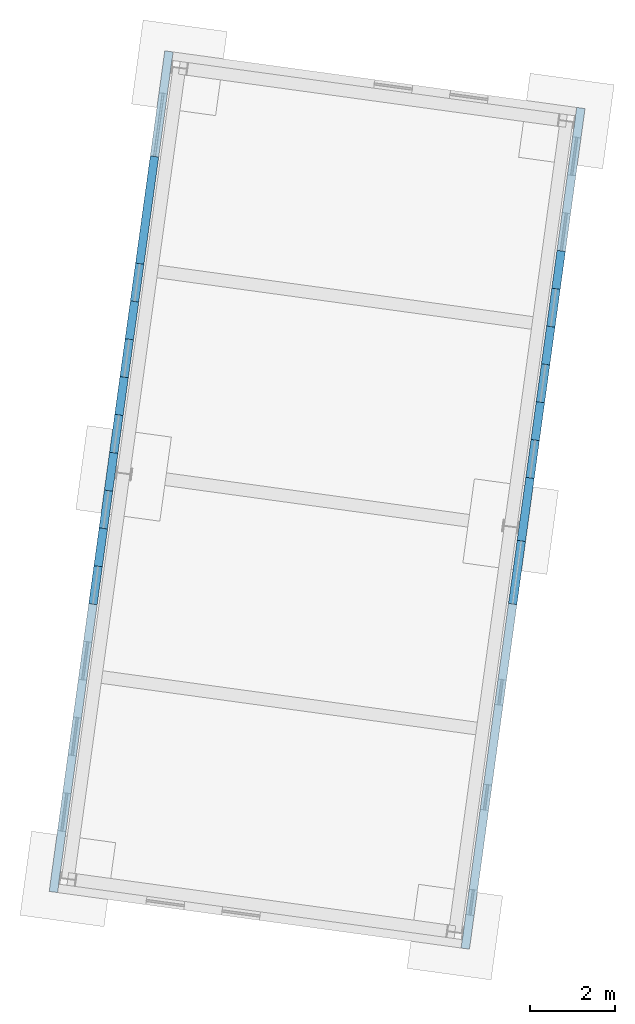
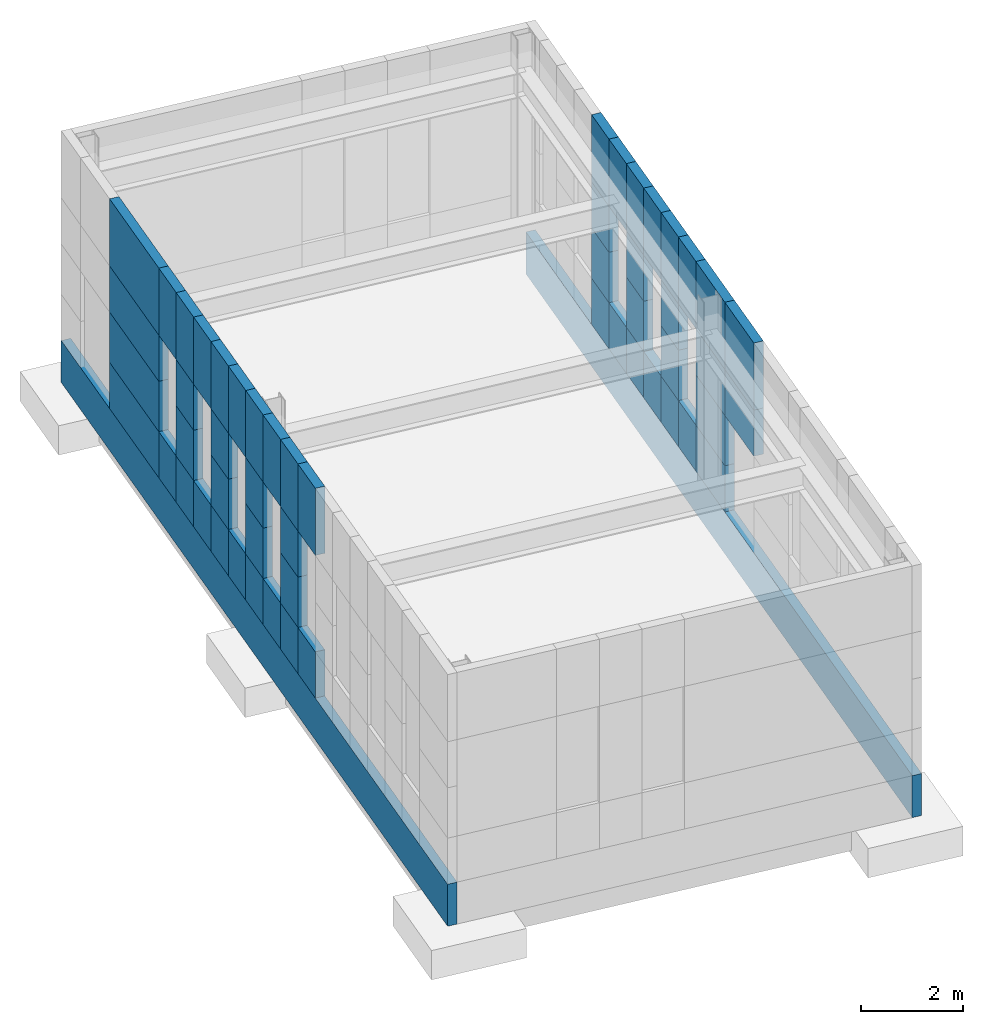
# One storey, part 3 of 5: 56 walls.
"""IFC4 building model written with IfcOpenShell, lengths in metres."""

import ifcopenshell
import ifcopenshell.guid

model = None  # the IFC model being written
_history = None  # IfcOwnerHistory: only IFC2X3 demands one
_inside = {}  # id of a spatial element -> (the spatial element, [elements in it])
_under = {}  # id of a project, library or spatial element -> (it, [spatial elements below it])
_declared = {}  # id of a project -> (the project, [libraries it declares])
_typed = {}  # id of a type object -> (the type object, [elements of that type])
_made_of = {}  # id of a material, layer set ... -> (it, [elements and type objects made of it])


def new_model(schema):
    """Start an empty IFC model of exactly this schema.

    Asked for "IFC4X3", IfcOpenShell would pick the latest addendum, in which some entities
    have other attributes; the version numbers below select the first issue.
    IFC2X3 requires an IfcOwnerHistory on every rooted entity: one is made here for all.
    """
    global model, _history
    if schema == "IFC4X3":
        model = ifcopenshell.file(schema_version=(4, 3, 0, 0))
    else:
        model = ifcopenshell.file(schema=schema)
    _inside.clear()
    _under.clear()
    _declared.clear()
    _typed.clear()
    _made_of.clear()
    _history = None
    if model.schema == "IFC2X3":
        org = make("IfcOrganization", Name="unknown")
        user = make(
            "IfcPersonAndOrganization",
            ThePerson=make("IfcPerson", FamilyName="unknown"),
            TheOrganization=org,
        )
        app = make(
            "IfcApplication",
            ApplicationDeveloper=org,
            Version="unknown",
            ApplicationFullName="unknown",
            ApplicationIdentifier="unknown",
        )
        _history = make(
            "IfcOwnerHistory",
            OwningUser=user,
            OwningApplication=app,
            ChangeAction="ADDED",
            CreationDate=0,
        )
    return model


def make(cls, **values):
    """One entity of the class cls with the attributes given. An attribute that is None is left unset."""
    return model.create_entity(
        cls, **{name: value for name, value in values.items() if value is not None}
    )


def rooted(cls, **values):
    """An entity with a GlobalId (a new one), such as an element, a storey or a relation."""
    return make(cls, GlobalId=ifcopenshell.guid.new(), OwnerHistory=_history, **values)


def si_unit(unit_type, name, prefix=None):
    """IfcSIUnit, for example si_unit("LENGTHUNIT", "METRE", prefix="MILLI")."""
    return make("IfcSIUnit", UnitType=unit_type, Prefix=prefix, Name=name)


def assignment(units):
    """IfcUnitAssignment: the units of a project."""
    return None if units is None else make("IfcUnitAssignment", Units=units)


def point(xyz):
    """IfcCartesianPoint."""
    return None if xyz is None else make("IfcCartesianPoint", Coordinates=xyz)


def direction(xyz):
    """IfcDirection."""
    return None if xyz is None else make("IfcDirection", DirectionRatios=xyz)


def frame(location, z_axis=None, x_axis=None):
    """IfcAxis2Placement3D, a coordinate frame: its origin and axes. An axis left out is left unset."""
    return make(
        "IfcAxis2Placement3D",
        Location=point(location),
        Axis=direction(z_axis),
        RefDirection=direction(x_axis),
    )


def origin_with_axes():
    """The frame at (0, 0, 0) with the z axis (0, 0, 1) and the x axis (1, 0, 0) written out."""
    return frame((0.0, 0.0, 0.0), z_axis=(0.0, 0.0, 1.0), x_axis=(1.0, 0.0, 0.0))


def place(relative_to, where):
    """IfcLocalPlacement: puts the frame where relative to a parent placement (None: the world)."""
    return make(
        "IfcLocalPlacement", PlacementRelTo=relative_to, RelativePlacement=where
    )


def context(
    kind, dimensions, precision=None, world=None, true_north=None, identifier=None
):
    """IfcGeometricRepresentationContext, for example the 3D "Model" context."""
    return make(
        "IfcGeometricRepresentationContext",
        ContextIdentifier=identifier,
        ContextType=kind,
        CoordinateSpaceDimension=dimensions,
        Precision=precision,
        WorldCoordinateSystem=world,
        TrueNorth=true_north,
    )


def subcontext(parent, identifier, kind, view, scale=None):
    """IfcGeometricRepresentationSubContext, for example "Body" below "Model"."""
    return make(
        "IfcGeometricRepresentationSubContext",
        ContextIdentifier=identifier,
        ContextType=kind,
        ParentContext=parent,
        TargetScale=scale,
        TargetView=view,
    )


def project(units=None, contexts=None):
    """IfcProject with its units and contexts."""
    return rooted(
        "IfcProject",
        Name="project",
        RepresentationContexts=contexts,
        UnitsInContext=assignment(units),
    )


def spatial(cls, under=None, at=None, **own):
    """A site, building, storey or space (cls), placed at a placement, below another one or the project."""
    s = rooted(cls, ObjectPlacement=at, **own)
    if under is not None:
        _under.setdefault(under.id(), (under, []))[1].append(s)
    return s


def point_list(points):
    """IfcCartesianPointList2D or 3D."""
    cls = (
        "IfcCartesianPointList2D" if len(points[0]) == 2 else "IfcCartesianPointList3D"
    )
    return make(cls, CoordList=points)


def triangles(points, corners, closed=None, point_numbers=None):
    """IfcTriangulatedFaceSet: each triangle names its three corners, points numbered from 1."""
    return make(
        "IfcTriangulatedFaceSet",
        Coordinates=point_list(points),
        Closed=closed,
        CoordIndex=corners,
        PnIndex=point_numbers,
    )


def shape(context_of_items, identifier, shape_type, items):
    """IfcShapeRepresentation: the items that make up one representation, for example the "Body"."""
    return make(
        "IfcShapeRepresentation",
        ContextOfItems=context_of_items,
        RepresentationIdentifier=identifier,
        RepresentationType=shape_type,
        Items=items,
    )


def material(Name=None, Category=None):
    """IfcMaterial."""
    return make("IfcMaterial", Name=Name, Category=Category)


def made_of(thing, what):
    """Note that an element or type object is made of a material, layer set ...; save() writes the relation."""
    if what is not None:
        _made_of.setdefault(what.id(), (what, []))[1].append(thing)
    return thing


def element(
    cls,
    number,
    at=None,
    inside=None,
    cuts=None,
    type_object=None,
    material=None,
    context=None,
    identifier="Body",
    shape_type=None,
    held_by="IfcProductDefinitionShape",
    body=None,
    shapes=None,
    **own,
):
    """One element of the class cls, such as IfcWall. Its Tag is "e" and its number.

    at: its placement. inside: the storey or other place that contains it. cuts: it is an
    opening in that element (IfcRelVoidsElement). A single representation is given by context,
    identifier, shape_type and body (its items); several are given by shapes. held_by: the class
    of the entity that holds the representations. save() writes the other relations.
    """
    e = rooted(cls, Tag="e%d" % number, ObjectPlacement=at, **own)
    if body is not None:
        shapes = [shape(context, identifier, shape_type, body)]
    if shapes is not None:
        e.Representation = make(held_by, Representations=shapes)
    if inside is not None:
        _inside.setdefault(inside.id(), (inside, []))[1].append(e)
    if cuts is not None:
        rooted(
            "IfcRelVoidsElement", RelatingBuildingElement=cuts, RelatedOpeningElement=e
        )
    if type_object is not None:
        _typed.setdefault(type_object.id(), (type_object, []))[1].append(e)
    return made_of(e, material)


def aggregate(whole, parts):
    """IfcRelAggregates: a whole, such as a stair, and the parts it consists of."""
    return rooted("IfcRelAggregates", RelatingObject=whole, RelatedObjects=parts)


def save(model, path):
    """Write the relations noted so far, then the file.

    IfcRelAggregates (storeys below a building ...), IfcRelContainedInSpatialStructure (elements
    in a storey), IfcRelDefinesByType, IfcRelAssociatesMaterial and IfcRelDeclares: one each for
    every whole, place, type object, material and project.
    """
    for whole, parts in _under.values():
        aggregate(whole, parts)
    for where, things in _inside.values():
        rooted(
            "IfcRelContainedInSpatialStructure",
            RelatedElements=things,
            RelatingStructure=where,
        )
    for kind, things in _typed.values():
        rooted("IfcRelDefinesByType", RelatedObjects=things, RelatingType=kind)
    for what, things in _made_of.values():
        rooted("IfcRelAssociatesMaterial", RelatedObjects=things, RelatingMaterial=what)
    for by, libraries in _declared.values():
        rooted("IfcRelDeclares", RelatingContext=by, RelatedDefinitions=libraries)
    model.write(path)


model = new_model("IFC4")

# Units and contexts
model_context = context("Model", 3, precision=1e-05, world=origin_with_axes(), true_north=direction((0.0, 1.0)))
body_context = subcontext(model_context, "Body", "Model", "MODEL_VIEW")
ifc_project = project(units=[si_unit("AREAUNIT", "SQUARE_METRE"), si_unit("VOLUMEUNIT", "CUBIC_METRE"), si_unit("LENGTHUNIT", "METRE")], contexts=[model_context])

# Site, building, storey
site_placement = place(None, origin_with_axes())
site = spatial("IfcSite", under=ifc_project, at=site_placement, Name="Parcela industrial Jinhong")
building_placement = place(site_placement, origin_with_axes())
building = spatial("IfcBuilding", under=site, at=building_placement, Name="Edificio de oficinas")
storey_placement = place(building_placement, origin_with_axes())
storey = spatial("IfcBuildingStorey", under=building, at=storey_placement, Name="Planta baja", Elevation=0.9499999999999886)

# Walls
ifc_material_1 = material(Name="Bloque hueco de hormigón de árido ligero", Category="Material documentado")
wall_1_placement = place(storey_placement, origin_with_axes())
element("IfcWall", 1, at=wall_1_placement, inside=storey, material=ifc_material_1, Name="Edificio de oficinas · Fábrica de bloques huecos de hormigón de 200 mm · eje A · tramo 07", PredefinedType="STANDARD", context=body_context, shape_type="Tessellation", body=[
    triangles([(17.202125, 90.441126, 0.95), (16.854805, 87.91489, 0.95), (17.052941, 87.887649, 0.95), (17.400261, 90.413885, 0.95), (17.202125, 90.441126, 2.05), (16.854805, 87.91489, 2.05), (17.052941, 87.887649, 2.05), (17.400261, 90.413885, 2.05)], [[2, 1, 4], [4, 3, 2], [8, 5, 6], [6, 7, 8], [1, 2, 6], [1, 6, 5], [2, 3, 7], [2, 7, 6], [3, 4, 8], [3, 8, 7], [4, 1, 5], [4, 5, 8]], closed=True),
])
wall_2_placement = place(storey_placement, origin_with_axes())
element("IfcWall", 2, at=wall_2_placement, inside=storey, material=ifc_material_1, Name="Edificio de oficinas · Fábrica de bloques huecos de hormigón de 200 mm · eje A · tramo 08", PredefinedType="STANDARD", context=body_context, shape_type="Tessellation", body=[
    triangles([(17.202125, 90.441126, 2.05), (16.854805, 87.91489, 2.05), (17.052941, 87.887649, 2.05), (17.400261, 90.413885, 2.05), (17.202125, 90.441126, 3.25), (16.854805, 87.91489, 3.25), (17.052941, 87.887649, 3.25), (17.400261, 90.413885, 3.25)], [[2, 1, 4], [4, 3, 2], [8, 5, 6], [6, 7, 8], [1, 2, 6], [1, 6, 5], [2, 3, 7], [2, 7, 6], [3, 4, 8], [3, 8, 7], [4, 1, 5], [4, 5, 8]], closed=True),
])
wall_3_placement = place(storey_placement, origin_with_axes())
element("IfcWall", 3, at=wall_3_placement, inside=storey, material=ifc_material_1, Name="Edificio de oficinas · Fábrica de bloques huecos de hormigón de 200 mm · eje A · tramo 09", PredefinedType="STANDARD", context=body_context, shape_type="Tessellation", body=[
    triangles([(17.202125, 90.441126, 3.25), (16.854805, 87.91489, 3.25), (17.052941, 87.887649, 3.25), (17.400261, 90.413885, 3.25), (17.202125, 90.441126, 4.35), (16.854805, 87.91489, 4.35), (17.052941, 87.887649, 4.35), (17.400261, 90.413885, 4.35)], [[2, 1, 4], [4, 3, 2], [8, 5, 6], [6, 7, 8], [1, 2, 6], [1, 6, 5], [2, 3, 7], [2, 7, 6], [3, 4, 8], [3, 8, 7], [4, 1, 5], [4, 5, 8]], closed=True),
])
wall_4_placement = place(storey_placement, origin_with_axes())
element("IfcWall", 4, at=wall_4_placement, inside=storey, material=ifc_material_1, Name="Edificio de oficinas · Fábrica de bloques huecos de hormigón de 200 mm · eje A · tramo 10", PredefinedType="STANDARD", context=body_context, shape_type="Tessellation", body=[
    triangles([(17.202125, 90.441126, 4.35), (16.854805, 87.91489, 4.35), (17.052941, 87.887649, 4.35), (17.400261, 90.413885, 4.35), (17.202125, 90.441126, 5.95), (16.854805, 87.91489, 5.95), (17.052941, 87.887649, 5.95), (17.400261, 90.413885, 5.95)], [[2, 1, 4], [4, 3, 2], [8, 5, 6], [6, 7, 8], [1, 2, 6], [1, 6, 5], [2, 3, 7], [2, 7, 6], [3, 4, 8], [3, 8, 7], [4, 1, 5], [4, 5, 8]], closed=True),
])
wall_5_placement = place(storey_placement, origin_with_axes())
element("IfcWall", 5, at=wall_5_placement, inside=storey, material=ifc_material_1, Name="Edificio de oficinas · Fábrica de bloques huecos de hormigón de 200 mm · eje A · tramo 11", PredefinedType="STANDARD", context=body_context, shape_type="Tessellation", body=[
    triangles([(16.854805, 87.91489, 0.95), (16.732222, 87.023277, 0.95), (16.930358, 86.996036, 0.95), (17.052941, 87.887649, 0.95), (16.854805, 87.91489, 2.05), (16.732222, 87.023277, 2.05), (16.930358, 86.996036, 2.05), (17.052941, 87.887649, 2.05)], [[2, 1, 4], [4, 3, 2], [8, 5, 6], [6, 7, 8], [1, 2, 6], [1, 6, 5], [2, 3, 7], [2, 7, 6], [3, 4, 8], [3, 8, 7], [4, 1, 5], [4, 5, 8]], closed=True),
])
wall_6_placement = place(storey_placement, origin_with_axes())
element("IfcWall", 6, at=wall_6_placement, inside=storey, material=ifc_material_1, Name="Edificio de oficinas · Fábrica de bloques huecos de hormigón de 200 mm · eje A · tramo 12", PredefinedType="STANDARD", context=body_context, shape_type="Tessellation", body=[
    triangles([(16.854805, 87.91489, 4.35), (16.732222, 87.023277, 4.35), (16.930358, 86.996036, 4.35), (17.052941, 87.887649, 4.35), (16.854805, 87.91489, 5.95), (16.732222, 87.023277, 5.95), (16.930358, 86.996036, 5.95), (17.052941, 87.887649, 5.95)], [[2, 1, 4], [4, 3, 2], [8, 5, 6], [6, 7, 8], [1, 2, 6], [1, 6, 5], [2, 3, 7], [2, 7, 6], [3, 4, 8], [3, 8, 7], [4, 1, 5], [4, 5, 8]], closed=True),
])
wall_7_placement = place(storey_placement, origin_with_axes())
element("IfcWall", 7, at=wall_7_placement, inside=storey, material=ifc_material_1, Name="Edificio de oficinas · Fábrica de bloques huecos de hormigón de 200 mm · eje A · tramo 13", PredefinedType="STANDARD", context=body_context, shape_type="Tessellation", body=[
    triangles([(16.732222, 87.023277, 0.95), (16.609638, 86.131664, 0.95), (16.807774, 86.104423, 0.95), (16.930358, 86.996036, 0.95), (16.732222, 87.023277, 2.05), (16.609638, 86.131664, 2.05), (16.807774, 86.104423, 2.05), (16.930358, 86.996036, 2.05)], [[2, 1, 4], [4, 3, 2], [8, 5, 6], [6, 7, 8], [1, 2, 6], [1, 6, 5], [2, 3, 7], [2, 7, 6], [3, 4, 8], [3, 8, 7], [4, 1, 5], [4, 5, 8]], closed=True),
])
wall_8_placement = place(storey_placement, origin_with_axes())
element("IfcWall", 8, at=wall_8_placement, inside=storey, material=ifc_material_1, Name="Edificio de oficinas · Fábrica de bloques huecos de hormigón de 200 mm · eje A · tramo 14", PredefinedType="STANDARD", context=body_context, shape_type="Tessellation", body=[
    triangles([(16.732222, 87.023277, 2.05), (16.609638, 86.131664, 2.05), (16.807774, 86.104423, 2.05), (16.930358, 86.996036, 2.05), (16.732222, 87.023277, 3.25), (16.609638, 86.131664, 3.25), (16.807774, 86.104423, 3.25), (16.930358, 86.996036, 3.25)], [[2, 1, 4], [4, 3, 2], [8, 5, 6], [6, 7, 8], [1, 2, 6], [1, 6, 5], [2, 3, 7], [2, 7, 6], [3, 4, 8], [3, 8, 7], [4, 1, 5], [4, 5, 8]], closed=True),
])
wall_9_placement = place(storey_placement, origin_with_axes())
element("IfcWall", 9, at=wall_9_placement, inside=storey, material=ifc_material_1, Name="Edificio de oficinas · Fábrica de bloques huecos de hormigón de 200 mm · eje A · tramo 15", PredefinedType="STANDARD", context=body_context, shape_type="Tessellation", body=[
    triangles([(16.732222, 87.023277, 3.25), (16.609638, 86.131664, 3.25), (16.807774, 86.104423, 3.25), (16.930358, 86.996036, 3.25), (16.732222, 87.023277, 4.35), (16.609638, 86.131664, 4.35), (16.807774, 86.104423, 4.35), (16.930358, 86.996036, 4.35)], [[2, 1, 4], [4, 3, 2], [8, 5, 6], [6, 7, 8], [1, 2, 6], [1, 6, 5], [2, 3, 7], [2, 7, 6], [3, 4, 8], [3, 8, 7], [4, 1, 5], [4, 5, 8]], closed=True),
])
wall_10_placement = place(storey_placement, origin_with_axes())
element("IfcWall", 10, at=wall_10_placement, inside=storey, material=ifc_material_1, Name="Edificio de oficinas · Fábrica de bloques huecos de hormigón de 200 mm · eje A · tramo 16", PredefinedType="STANDARD", context=body_context, shape_type="Tessellation", body=[
    triangles([(16.732222, 87.023277, 4.35), (16.609638, 86.131664, 4.35), (16.807774, 86.104423, 4.35), (16.930358, 86.996036, 4.35), (16.732222, 87.023277, 5.95), (16.609638, 86.131664, 5.95), (16.807774, 86.104423, 5.95), (16.930358, 86.996036, 5.95)], [[2, 1, 4], [4, 3, 2], [8, 5, 6], [6, 7, 8], [1, 2, 6], [1, 6, 5], [2, 3, 7], [2, 7, 6], [3, 4, 8], [3, 8, 7], [4, 1, 5], [4, 5, 8]], closed=True),
])
wall_11_placement = place(storey_placement, origin_with_axes())
element("IfcWall", 11, at=wall_11_placement, inside=storey, material=ifc_material_1, Name="Edificio de oficinas · Fábrica de bloques huecos de hormigón de 200 mm · eje A · tramo 17", PredefinedType="STANDARD", context=body_context, shape_type="Tessellation", body=[
    triangles([(16.609638, 86.131664, 0.95), (16.487055, 85.240051, 0.95), (16.685191, 85.212811, 0.95), (16.807774, 86.104423, 0.95), (16.609638, 86.131664, 2.05), (16.487055, 85.240051, 2.05), (16.685191, 85.212811, 2.05), (16.807774, 86.104423, 2.05)], [[2, 1, 4], [4, 3, 2], [8, 5, 6], [6, 7, 8], [1, 2, 6], [1, 6, 5], [2, 3, 7], [2, 7, 6], [3, 4, 8], [3, 8, 7], [4, 1, 5], [4, 5, 8]], closed=True),
])
wall_12_placement = place(storey_placement, origin_with_axes())
element("IfcWall", 12, at=wall_12_placement, inside=storey, material=ifc_material_1, Name="Edificio de oficinas · Fábrica de bloques huecos de hormigón de 200 mm · eje A · tramo 18", PredefinedType="STANDARD", context=body_context, shape_type="Tessellation", body=[
    triangles([(16.609638, 86.131664, 4.35), (16.487055, 85.240051, 4.35), (16.685191, 85.212811, 4.35), (16.807774, 86.104423, 4.35), (16.609638, 86.131664, 5.95), (16.487055, 85.240051, 5.95), (16.685191, 85.212811, 5.95), (16.807774, 86.104423, 5.95)], [[2, 1, 4], [4, 3, 2], [8, 5, 6], [6, 7, 8], [1, 2, 6], [1, 6, 5], [2, 3, 7], [2, 7, 6], [3, 4, 8], [3, 8, 7], [4, 1, 5], [4, 5, 8]], closed=True),
])
wall_13_placement = place(storey_placement, origin_with_axes())
element("IfcWall", 13, at=wall_13_placement, inside=storey, material=ifc_material_1, Name="Edificio de oficinas · Fábrica de bloques huecos de hormigón de 200 mm · eje A · tramo 19", PredefinedType="STANDARD", context=body_context, shape_type="Tessellation", body=[
    triangles([(16.487055, 85.240051, 0.95), (16.364471, 84.348439, 0.95), (16.562607, 84.321198, 0.95), (16.685191, 85.212811, 0.95), (16.487055, 85.240051, 2.05), (16.364471, 84.348439, 2.05), (16.562607, 84.321198, 2.05), (16.685191, 85.212811, 2.05)], [[2, 1, 4], [4, 3, 2], [8, 5, 6], [6, 7, 8], [1, 2, 6], [1, 6, 5], [2, 3, 7], [2, 7, 6], [3, 4, 8], [3, 8, 7], [4, 1, 5], [4, 5, 8]], closed=True),
])
wall_14_placement = place(storey_placement, origin_with_axes())
element("IfcWall", 14, at=wall_14_placement, inside=storey, material=ifc_material_1, Name="Edificio de oficinas · Fábrica de bloques huecos de hormigón de 200 mm · eje A · tramo 20", PredefinedType="STANDARD", context=body_context, shape_type="Tessellation", body=[
    triangles([(16.487055, 85.240051, 2.05), (16.364471, 84.348439, 2.05), (16.562607, 84.321198, 2.05), (16.685191, 85.212811, 2.05), (16.487055, 85.240051, 3.25), (16.364471, 84.348439, 3.25), (16.562607, 84.321198, 3.25), (16.685191, 85.212811, 3.25)], [[2, 1, 4], [4, 3, 2], [8, 5, 6], [6, 7, 8], [1, 2, 6], [1, 6, 5], [2, 3, 7], [2, 7, 6], [3, 4, 8], [3, 8, 7], [4, 1, 5], [4, 5, 8]], closed=True),
])
wall_15_placement = place(storey_placement, origin_with_axes())
element("IfcWall", 15, at=wall_15_placement, inside=storey, material=ifc_material_1, Name="Edificio de oficinas · Fábrica de bloques huecos de hormigón de 200 mm · eje A · tramo 21", PredefinedType="STANDARD", context=body_context, shape_type="Tessellation", body=[
    triangles([(16.487055, 85.240051, 3.25), (16.364471, 84.348439, 3.25), (16.562607, 84.321198, 3.25), (16.685191, 85.212811, 3.25), (16.487055, 85.240051, 4.35), (16.364471, 84.348439, 4.35), (16.562607, 84.321198, 4.35), (16.685191, 85.212811, 4.35)], [[2, 1, 4], [4, 3, 2], [8, 5, 6], [6, 7, 8], [1, 2, 6], [1, 6, 5], [2, 3, 7], [2, 7, 6], [3, 4, 8], [3, 8, 7], [4, 1, 5], [4, 5, 8]], closed=True),
])
wall_16_placement = place(storey_placement, origin_with_axes())
element("IfcWall", 16, at=wall_16_placement, inside=storey, material=ifc_material_1, Name="Edificio de oficinas · Fábrica de bloques huecos de hormigón de 200 mm · eje A · tramo 22", PredefinedType="STANDARD", context=body_context, shape_type="Tessellation", body=[
    triangles([(16.487055, 85.240051, 4.35), (16.364471, 84.348439, 4.35), (16.562607, 84.321198, 4.35), (16.685191, 85.212811, 4.35), (16.487055, 85.240051, 5.95), (16.364471, 84.348439, 5.95), (16.562607, 84.321198, 5.95), (16.685191, 85.212811, 5.95)], [[2, 1, 4], [4, 3, 2], [8, 5, 6], [6, 7, 8], [1, 2, 6], [1, 6, 5], [2, 3, 7], [2, 7, 6], [3, 4, 8], [3, 8, 7], [4, 1, 5], [4, 5, 8]], closed=True),
])
wall_17_placement = place(storey_placement, origin_with_axes())
element("IfcWall", 17, at=wall_17_placement, inside=storey, material=ifc_material_1, Name="Edificio de oficinas · Fábrica de bloques huecos de hormigón de 200 mm · eje A · tramo 23", PredefinedType="STANDARD", context=body_context, shape_type="Tessellation", body=[
    triangles([(16.364471, 84.348439, 0.95), (16.241888, 83.456826, 0.95), (16.440024, 83.429585, 0.95), (16.562607, 84.321198, 0.95), (16.364471, 84.348439, 2.05), (16.241888, 83.456826, 2.05), (16.440024, 83.429585, 2.05), (16.562607, 84.321198, 2.05)], [[2, 1, 4], [4, 3, 2], [8, 5, 6], [6, 7, 8], [1, 2, 6], [1, 6, 5], [2, 3, 7], [2, 7, 6], [3, 4, 8], [3, 8, 7], [4, 1, 5], [4, 5, 8]], closed=True),
])
wall_18_placement = place(storey_placement, origin_with_axes())
element("IfcWall", 18, at=wall_18_placement, inside=storey, material=ifc_material_1, Name="Edificio de oficinas · Fábrica de bloques huecos de hormigón de 200 mm · eje A · tramo 24", PredefinedType="STANDARD", context=body_context, shape_type="Tessellation", body=[
    triangles([(16.364471, 84.348439, 4.35), (16.241888, 83.456826, 4.35), (16.440024, 83.429585, 4.35), (16.562607, 84.321198, 4.35), (16.364471, 84.348439, 5.95), (16.241888, 83.456826, 5.95), (16.440024, 83.429585, 5.95), (16.562607, 84.321198, 5.95)], [[2, 1, 4], [4, 3, 2], [8, 5, 6], [6, 7, 8], [1, 2, 6], [1, 6, 5], [2, 3, 7], [2, 7, 6], [3, 4, 8], [3, 8, 7], [4, 1, 5], [4, 5, 8]], closed=True),
])
wall_19_placement = place(storey_placement, origin_with_axes())
element("IfcWall", 19, at=wall_19_placement, inside=storey, material=ifc_material_1, Name="Edificio de oficinas · Fábrica de bloques huecos de hormigón de 200 mm · eje A · tramo 25", PredefinedType="STANDARD", context=body_context, shape_type="Tessellation", body=[
    triangles([(16.241888, 83.456826, 0.95), (16.119304, 82.565213, 0.95), (16.31744, 82.537972, 0.95), (16.440024, 83.429585, 0.95), (16.241888, 83.456826, 2.05), (16.119304, 82.565213, 2.05), (16.31744, 82.537972, 2.05), (16.440024, 83.429585, 2.05)], [[2, 1, 4], [4, 3, 2], [8, 5, 6], [6, 7, 8], [1, 2, 6], [1, 6, 5], [2, 3, 7], [2, 7, 6], [3, 4, 8], [3, 8, 7], [4, 1, 5], [4, 5, 8]], closed=True),
])
wall_20_placement = place(storey_placement, origin_with_axes())
element("IfcWall", 20, at=wall_20_placement, inside=storey, material=ifc_material_1, Name="Edificio de oficinas · Fábrica de bloques huecos de hormigón de 200 mm · eje A · tramo 26", PredefinedType="STANDARD", context=body_context, shape_type="Tessellation", body=[
    triangles([(16.241888, 83.456826, 2.05), (16.119304, 82.565213, 2.05), (16.31744, 82.537972, 2.05), (16.440024, 83.429585, 2.05), (16.241888, 83.456826, 3.25), (16.119304, 82.565213, 3.25), (16.31744, 82.537972, 3.25), (16.440024, 83.429585, 3.25)], [[2, 1, 4], [4, 3, 2], [8, 5, 6], [6, 7, 8], [1, 2, 6], [1, 6, 5], [2, 3, 7], [2, 7, 6], [3, 4, 8], [3, 8, 7], [4, 1, 5], [4, 5, 8]], closed=True),
])
wall_21_placement = place(storey_placement, origin_with_axes())
element("IfcWall", 21, at=wall_21_placement, inside=storey, material=ifc_material_1, Name="Edificio de oficinas · Fábrica de bloques huecos de hormigón de 200 mm · eje A · tramo 27", PredefinedType="STANDARD", context=body_context, shape_type="Tessellation", body=[
    triangles([(16.241888, 83.456826, 3.25), (16.119304, 82.565213, 3.25), (16.31744, 82.537972, 3.25), (16.440024, 83.429585, 3.25), (16.241888, 83.456826, 4.35), (16.119304, 82.565213, 4.35), (16.31744, 82.537972, 4.35), (16.440024, 83.429585, 4.35)], [[2, 1, 4], [4, 3, 2], [8, 5, 6], [6, 7, 8], [1, 2, 6], [1, 6, 5], [2, 3, 7], [2, 7, 6], [3, 4, 8], [3, 8, 7], [4, 1, 5], [4, 5, 8]], closed=True),
])
wall_22_placement = place(storey_placement, origin_with_axes())
element("IfcWall", 22, at=wall_22_placement, inside=storey, material=ifc_material_1, Name="Edificio de oficinas · Fábrica de bloques huecos de hormigón de 200 mm · eje A · tramo 28", PredefinedType="STANDARD", context=body_context, shape_type="Tessellation", body=[
    triangles([(16.241888, 83.456826, 4.35), (16.119304, 82.565213, 4.35), (16.31744, 82.537972, 4.35), (16.440024, 83.429585, 4.35), (16.241888, 83.456826, 5.95), (16.119304, 82.565213, 5.95), (16.31744, 82.537972, 5.95), (16.440024, 83.429585, 5.95)], [[2, 1, 4], [4, 3, 2], [8, 5, 6], [6, 7, 8], [1, 2, 6], [1, 6, 5], [2, 3, 7], [2, 7, 6], [3, 4, 8], [3, 8, 7], [4, 1, 5], [4, 5, 8]], closed=True),
])
wall_23_placement = place(storey_placement, origin_with_axes())
element("IfcWall", 23, at=wall_23_placement, inside=storey, material=ifc_material_1, Name="Edificio de oficinas · Fábrica de bloques huecos de hormigón de 200 mm · eje A · tramo 29", PredefinedType="STANDARD", context=body_context, shape_type="Tessellation", body=[
    triangles([(16.119304, 82.565213, 0.95), (15.996721, 81.673601, 0.95), (16.194857, 81.64636, 0.95), (16.31744, 82.537972, 0.95), (16.119304, 82.565213, 2.05), (15.996721, 81.673601, 2.05), (16.194857, 81.64636, 2.05), (16.31744, 82.537972, 2.05)], [[2, 1, 4], [4, 3, 2], [8, 5, 6], [6, 7, 8], [1, 2, 6], [1, 6, 5], [2, 3, 7], [2, 7, 6], [3, 4, 8], [3, 8, 7], [4, 1, 5], [4, 5, 8]], closed=True),
])
wall_24_placement = place(storey_placement, origin_with_axes())
element("IfcWall", 24, at=wall_24_placement, inside=storey, material=ifc_material_1, Name="Edificio de oficinas · Fábrica de bloques huecos de hormigón de 200 mm · eje A · tramo 30", PredefinedType="STANDARD", context=body_context, shape_type="Tessellation", body=[
    triangles([(16.119304, 82.565213, 4.35), (15.996721, 81.673601, 4.35), (16.194857, 81.64636, 4.35), (16.31744, 82.537972, 4.35), (16.119304, 82.565213, 5.95), (15.996721, 81.673601, 5.95), (16.194857, 81.64636, 5.95), (16.31744, 82.537972, 5.95)], [[2, 1, 4], [4, 3, 2], [8, 5, 6], [6, 7, 8], [1, 2, 6], [1, 6, 5], [2, 3, 7], [2, 7, 6], [3, 4, 8], [3, 8, 7], [4, 1, 5], [4, 5, 8]], closed=True),
])
wall_25_placement = place(storey_placement, origin_with_axes())
element("IfcWall", 25, at=wall_25_placement, inside=storey, material=ifc_material_1, Name="Edificio de oficinas · Fábrica de bloques huecos de hormigón de 200 mm · eje A · tramo 31", PredefinedType="STANDARD", context=body_context, shape_type="Tessellation", body=[
    triangles([(15.996721, 81.673601, 0.95), (15.874137, 80.781988, 0.95), (16.072273, 80.754747, 0.95), (16.194857, 81.64636, 0.95), (15.996721, 81.673601, 2.05), (15.874137, 80.781988, 2.05), (16.072273, 80.754747, 2.05), (16.194857, 81.64636, 2.05)], [[2, 1, 4], [4, 3, 2], [8, 5, 6], [6, 7, 8], [1, 2, 6], [1, 6, 5], [2, 3, 7], [2, 7, 6], [3, 4, 8], [3, 8, 7], [4, 1, 5], [4, 5, 8]], closed=True),
])
wall_26_placement = place(storey_placement, origin_with_axes())
element("IfcWall", 26, at=wall_26_placement, inside=storey, material=ifc_material_1, Name="Edificio de oficinas · Fábrica de bloques huecos de hormigón de 200 mm · eje A · tramo 32", PredefinedType="STANDARD", context=body_context, shape_type="Tessellation", body=[
    triangles([(15.996721, 81.673601, 2.05), (15.874137, 80.781988, 2.05), (16.072273, 80.754747, 2.05), (16.194857, 81.64636, 2.05), (15.996721, 81.673601, 3.25), (15.874137, 80.781988, 3.25), (16.072273, 80.754747, 3.25), (16.194857, 81.64636, 3.25)], [[2, 1, 4], [4, 3, 2], [8, 5, 6], [6, 7, 8], [1, 2, 6], [1, 6, 5], [2, 3, 7], [2, 7, 6], [3, 4, 8], [3, 8, 7], [4, 1, 5], [4, 5, 8]], closed=True),
])
wall_27_placement = place(storey_placement, origin_with_axes())
element("IfcWall", 27, at=wall_27_placement, inside=storey, material=ifc_material_1, Name="Edificio de oficinas · Fábrica de bloques huecos de hormigón de 200 mm · eje A · tramo 33", PredefinedType="STANDARD", context=body_context, shape_type="Tessellation", body=[
    triangles([(15.996721, 81.673601, 3.25), (15.874137, 80.781988, 3.25), (16.072273, 80.754747, 3.25), (16.194857, 81.64636, 3.25), (15.996721, 81.673601, 4.35), (15.874137, 80.781988, 4.35), (16.072273, 80.754747, 4.35), (16.194857, 81.64636, 4.35)], [[2, 1, 4], [4, 3, 2], [8, 5, 6], [6, 7, 8], [1, 2, 6], [1, 6, 5], [2, 3, 7], [2, 7, 6], [3, 4, 8], [3, 8, 7], [4, 1, 5], [4, 5, 8]], closed=True),
])
wall_28_placement = place(storey_placement, origin_with_axes())
element("IfcWall", 28, at=wall_28_placement, inside=storey, material=ifc_material_1, Name="Edificio de oficinas · Fábrica de bloques huecos de hormigón de 200 mm · eje A · tramo 34", PredefinedType="STANDARD", context=body_context, shape_type="Tessellation", body=[
    triangles([(15.996721, 81.673601, 4.35), (15.874137, 80.781988, 4.35), (16.072273, 80.754747, 4.35), (16.194857, 81.64636, 4.35), (15.996721, 81.673601, 5.95), (15.874137, 80.781988, 5.95), (16.072273, 80.754747, 5.95), (16.194857, 81.64636, 5.95)], [[2, 1, 4], [4, 3, 2], [8, 5, 6], [6, 7, 8], [1, 2, 6], [1, 6, 5], [2, 3, 7], [2, 7, 6], [3, 4, 8], [3, 8, 7], [4, 1, 5], [4, 5, 8]], closed=True),
])
wall_29_placement = place(storey_placement, origin_with_axes())
element("IfcWall", 29, at=wall_29_placement, inside=storey, material=ifc_material_1, Name="Edificio de oficinas · Fábrica de bloques huecos de hormigón de 200 mm · eje A · tramo 35", PredefinedType="STANDARD", context=body_context, shape_type="Tessellation", body=[
    triangles([(15.874137, 80.781988, 0.95), (15.751554, 79.890375, 0.95), (15.94969, 79.863134, 0.95), (16.072273, 80.754747, 0.95), (15.874137, 80.781988, 2.05), (15.751554, 79.890375, 2.05), (15.94969, 79.863134, 2.05), (16.072273, 80.754747, 2.05)], [[2, 1, 4], [4, 3, 2], [8, 5, 6], [6, 7, 8], [1, 2, 6], [1, 6, 5], [2, 3, 7], [2, 7, 6], [3, 4, 8], [3, 8, 7], [4, 1, 5], [4, 5, 8]], closed=True),
])
wall_30_placement = place(storey_placement, origin_with_axes())
element("IfcWall", 30, at=wall_30_placement, inside=storey, material=ifc_material_1, Name="Edificio de oficinas · Fábrica de bloques huecos de hormigón de 200 mm · eje A · tramo 36", PredefinedType="STANDARD", context=body_context, shape_type="Tessellation", body=[
    triangles([(15.874137, 80.781988, 4.35), (15.751554, 79.890375, 4.35), (15.94969, 79.863134, 4.35), (16.072273, 80.754747, 4.35), (15.874137, 80.781988, 5.95), (15.751554, 79.890375, 5.95), (15.94969, 79.863134, 5.95), (16.072273, 80.754747, 5.95)], [[2, 1, 4], [4, 3, 2], [8, 5, 6], [6, 7, 8], [1, 2, 6], [1, 6, 5], [2, 3, 7], [2, 7, 6], [3, 4, 8], [3, 8, 7], [4, 1, 5], [4, 5, 8]], closed=True),
])
wall_31_placement = place(storey_placement, origin_with_axes())
element("IfcWall", 31, at=wall_31_placement, inside=storey, material=ifc_material_1, Name="Edificio de oficinas · Fábrica de bloques huecos de hormigón de 200 mm · eje B · tramo 13", PredefinedType="STANDARD", context=body_context, shape_type="Tessellation", body=[
    triangles([(26.788214, 88.214715, 0.95), (26.66563, 87.323102, 0.95), (26.863766, 87.295861, 0.95), (26.98635, 88.187474, 0.95), (26.788214, 88.214715, 2.05), (26.66563, 87.323102, 2.05), (26.863766, 87.295861, 2.05), (26.98635, 88.187474, 2.05)], [[2, 1, 4], [4, 3, 2], [8, 5, 6], [6, 7, 8], [1, 2, 6], [1, 6, 5], [2, 3, 7], [2, 7, 6], [3, 4, 8], [3, 8, 7], [4, 1, 5], [4, 5, 8]], closed=True),
])
wall_32_placement = place(storey_placement, origin_with_axes())
element("IfcWall", 32, at=wall_32_placement, inside=storey, material=ifc_material_1, Name="Edificio de oficinas · Fábrica de bloques huecos de hormigón de 200 mm · eje B · tramo 14", PredefinedType="STANDARD", context=body_context, shape_type="Tessellation", body=[
    triangles([(26.788214, 88.214715, 2.05), (26.66563, 87.323102, 2.05), (26.863766, 87.295861, 2.05), (26.98635, 88.187474, 2.05), (26.788214, 88.214715, 3.25), (26.66563, 87.323102, 3.25), (26.863766, 87.295861, 3.25), (26.98635, 88.187474, 3.25)], [[2, 1, 4], [4, 3, 2], [8, 5, 6], [6, 7, 8], [1, 2, 6], [1, 6, 5], [2, 3, 7], [2, 7, 6], [3, 4, 8], [3, 8, 7], [4, 1, 5], [4, 5, 8]], closed=True),
])
wall_33_placement = place(storey_placement, origin_with_axes())
element("IfcWall", 33, at=wall_33_placement, inside=storey, material=ifc_material_1, Name="Edificio de oficinas · Fábrica de bloques huecos de hormigón de 200 mm · eje B · tramo 15", PredefinedType="STANDARD", context=body_context, shape_type="Tessellation", body=[
    triangles([(26.788214, 88.214715, 3.25), (26.66563, 87.323102, 3.25), (26.863766, 87.295861, 3.25), (26.98635, 88.187474, 3.25), (26.788214, 88.214715, 4.35), (26.66563, 87.323102, 4.35), (26.863766, 87.295861, 4.35), (26.98635, 88.187474, 4.35)], [[2, 1, 4], [4, 3, 2], [8, 5, 6], [6, 7, 8], [1, 2, 6], [1, 6, 5], [2, 3, 7], [2, 7, 6], [3, 4, 8], [3, 8, 7], [4, 1, 5], [4, 5, 8]], closed=True),
])
wall_34_placement = place(storey_placement, origin_with_axes())
element("IfcWall", 34, at=wall_34_placement, inside=storey, material=ifc_material_1, Name="Edificio de oficinas · Fábrica de bloques huecos de hormigón de 200 mm · eje B · tramo 16", PredefinedType="STANDARD", context=body_context, shape_type="Tessellation", body=[
    triangles([(26.788214, 88.214715, 4.35), (26.66563, 87.323102, 4.35), (26.863766, 87.295861, 4.35), (26.98635, 88.187474, 4.35), (26.788214, 88.214715, 5.95), (26.66563, 87.323102, 5.95), (26.863766, 87.295861, 5.95), (26.98635, 88.187474, 5.95)], [[2, 1, 4], [4, 3, 2], [8, 5, 6], [6, 7, 8], [1, 2, 6], [1, 6, 5], [2, 3, 7], [2, 7, 6], [3, 4, 8], [3, 8, 7], [4, 1, 5], [4, 5, 8]], closed=True),
])
wall_35_placement = place(storey_placement, origin_with_axes())
element("IfcWall", 35, at=wall_35_placement, inside=storey, material=ifc_material_1, Name="Edificio de oficinas · Fábrica de bloques huecos de hormigón de 200 mm · eje B · tramo 17", PredefinedType="STANDARD", context=body_context, shape_type="Tessellation", body=[
    triangles([(26.66563, 87.323102, 0.95), (26.543047, 86.431489, 0.95), (26.741183, 86.404248, 0.95), (26.863766, 87.295861, 0.95), (26.66563, 87.323102, 2.05), (26.543047, 86.431489, 2.05), (26.741183, 86.404248, 2.05), (26.863766, 87.295861, 2.05)], [[2, 1, 4], [4, 3, 2], [8, 5, 6], [6, 7, 8], [1, 2, 6], [1, 6, 5], [2, 3, 7], [2, 7, 6], [3, 4, 8], [3, 8, 7], [4, 1, 5], [4, 5, 8]], closed=True),
])
wall_36_placement = place(storey_placement, origin_with_axes())
element("IfcWall", 36, at=wall_36_placement, inside=storey, material=ifc_material_1, Name="Edificio de oficinas · Fábrica de bloques huecos de hormigón de 200 mm · eje B · tramo 18", PredefinedType="STANDARD", context=body_context, shape_type="Tessellation", body=[
    triangles([(26.66563, 87.323102, 4.35), (26.543047, 86.431489, 4.35), (26.741183, 86.404248, 4.35), (26.863766, 87.295861, 4.35), (26.66563, 87.323102, 5.95), (26.543047, 86.431489, 5.95), (26.741183, 86.404248, 5.95), (26.863766, 87.295861, 5.95)], [[2, 1, 4], [4, 3, 2], [8, 5, 6], [6, 7, 8], [1, 2, 6], [1, 6, 5], [2, 3, 7], [2, 7, 6], [3, 4, 8], [3, 8, 7], [4, 1, 5], [4, 5, 8]], closed=True),
])
wall_37_placement = place(storey_placement, origin_with_axes())
element("IfcWall", 37, at=wall_37_placement, inside=storey, material=ifc_material_1, Name="Edificio de oficinas · Fábrica de bloques huecos de hormigón de 200 mm · eje B · tramo 19", PredefinedType="STANDARD", context=body_context, shape_type="Tessellation", body=[
    triangles([(26.543047, 86.431489, 0.95), (26.420463, 85.539876, 0.95), (26.618599, 85.512636, 0.95), (26.741183, 86.404248, 0.95), (26.543047, 86.431489, 2.05), (26.420463, 85.539876, 2.05), (26.618599, 85.512636, 2.05), (26.741183, 86.404248, 2.05)], [[2, 1, 4], [4, 3, 2], [8, 5, 6], [6, 7, 8], [1, 2, 6], [1, 6, 5], [2, 3, 7], [2, 7, 6], [3, 4, 8], [3, 8, 7], [4, 1, 5], [4, 5, 8]], closed=True),
])
wall_38_placement = place(storey_placement, origin_with_axes())
element("IfcWall", 38, at=wall_38_placement, inside=storey, material=ifc_material_1, Name="Edificio de oficinas · Fábrica de bloques huecos de hormigón de 200 mm · eje B · tramo 20", PredefinedType="STANDARD", context=body_context, shape_type="Tessellation", body=[
    triangles([(26.543047, 86.431489, 2.05), (26.420463, 85.539876, 2.05), (26.618599, 85.512636, 2.05), (26.741183, 86.404248, 2.05), (26.543047, 86.431489, 3.25), (26.420463, 85.539876, 3.25), (26.618599, 85.512636, 3.25), (26.741183, 86.404248, 3.25)], [[2, 1, 4], [4, 3, 2], [8, 5, 6], [6, 7, 8], [1, 2, 6], [1, 6, 5], [2, 3, 7], [2, 7, 6], [3, 4, 8], [3, 8, 7], [4, 1, 5], [4, 5, 8]], closed=True),
])
wall_39_placement = place(storey_placement, origin_with_axes())
element("IfcWall", 39, at=wall_39_placement, inside=storey, material=ifc_material_1, Name="Edificio de oficinas · Fábrica de bloques huecos de hormigón de 200 mm · eje B · tramo 21", PredefinedType="STANDARD", context=body_context, shape_type="Tessellation", body=[
    triangles([(26.543047, 86.431489, 3.25), (26.420463, 85.539876, 3.25), (26.618599, 85.512636, 3.25), (26.741183, 86.404248, 3.25), (26.543047, 86.431489, 4.35), (26.420463, 85.539876, 4.35), (26.618599, 85.512636, 4.35), (26.741183, 86.404248, 4.35)], [[2, 1, 4], [4, 3, 2], [8, 5, 6], [6, 7, 8], [1, 2, 6], [1, 6, 5], [2, 3, 7], [2, 7, 6], [3, 4, 8], [3, 8, 7], [4, 1, 5], [4, 5, 8]], closed=True),
])
wall_40_placement = place(storey_placement, origin_with_axes())
element("IfcWall", 40, at=wall_40_placement, inside=storey, material=ifc_material_1, Name="Edificio de oficinas · Fábrica de bloques huecos de hormigón de 200 mm · eje B · tramo 22", PredefinedType="STANDARD", context=body_context, shape_type="Tessellation", body=[
    triangles([(26.543047, 86.431489, 4.35), (26.420463, 85.539876, 4.35), (26.618599, 85.512636, 4.35), (26.741183, 86.404248, 4.35), (26.543047, 86.431489, 5.95), (26.420463, 85.539876, 5.95), (26.618599, 85.512636, 5.95), (26.741183, 86.404248, 5.95)], [[2, 1, 4], [4, 3, 2], [8, 5, 6], [6, 7, 8], [1, 2, 6], [1, 6, 5], [2, 3, 7], [2, 7, 6], [3, 4, 8], [3, 8, 7], [4, 1, 5], [4, 5, 8]], closed=True),
])
wall_41_placement = place(storey_placement, origin_with_axes())
element("IfcWall", 41, at=wall_41_placement, inside=storey, material=ifc_material_1, Name="Edificio de oficinas · Fábrica de bloques huecos de hormigón de 200 mm · eje B · tramo 23", PredefinedType="STANDARD", context=body_context, shape_type="Tessellation", body=[
    triangles([(26.420463, 85.539876, 0.95), (26.29788, 84.648264, 0.95), (26.496016, 84.621023, 0.95), (26.618599, 85.512636, 0.95), (26.420463, 85.539876, 2.05), (26.29788, 84.648264, 2.05), (26.496016, 84.621023, 2.05), (26.618599, 85.512636, 2.05)], [[2, 1, 4], [4, 3, 2], [8, 5, 6], [6, 7, 8], [1, 2, 6], [1, 6, 5], [2, 3, 7], [2, 7, 6], [3, 4, 8], [3, 8, 7], [4, 1, 5], [4, 5, 8]], closed=True),
])
wall_42_placement = place(storey_placement, origin_with_axes())
element("IfcWall", 42, at=wall_42_placement, inside=storey, material=ifc_material_1, Name="Edificio de oficinas · Fábrica de bloques huecos de hormigón de 200 mm · eje B · tramo 24", PredefinedType="STANDARD", context=body_context, shape_type="Tessellation", body=[
    triangles([(26.420463, 85.539876, 4.35), (26.29788, 84.648264, 4.35), (26.496016, 84.621023, 4.35), (26.618599, 85.512636, 4.35), (26.420463, 85.539876, 5.95), (26.29788, 84.648264, 5.95), (26.496016, 84.621023, 5.95), (26.618599, 85.512636, 5.95)], [[2, 1, 4], [4, 3, 2], [8, 5, 6], [6, 7, 8], [1, 2, 6], [1, 6, 5], [2, 3, 7], [2, 7, 6], [3, 4, 8], [3, 8, 7], [4, 1, 5], [4, 5, 8]], closed=True),
])
wall_43_placement = place(storey_placement, origin_with_axes())
element("IfcWall", 43, at=wall_43_placement, inside=storey, material=ifc_material_1, Name="Edificio de oficinas · Fábrica de bloques huecos de hormigón de 200 mm · eje B · tramo 25", PredefinedType="STANDARD", context=body_context, shape_type="Tessellation", body=[
    triangles([(26.29788, 84.648264, 0.95), (26.175296, 83.756651, 0.95), (26.373432, 83.72941, 0.95), (26.496016, 84.621023, 0.95), (26.29788, 84.648264, 2.05), (26.175296, 83.756651, 2.05), (26.373432, 83.72941, 2.05), (26.496016, 84.621023, 2.05)], [[2, 1, 4], [4, 3, 2], [8, 5, 6], [6, 7, 8], [1, 2, 6], [1, 6, 5], [2, 3, 7], [2, 7, 6], [3, 4, 8], [3, 8, 7], [4, 1, 5], [4, 5, 8]], closed=True),
])
wall_44_placement = place(storey_placement, origin_with_axes())
element("IfcWall", 44, at=wall_44_placement, inside=storey, material=ifc_material_1, Name="Edificio de oficinas · Fábrica de bloques huecos de hormigón de 200 mm · eje B · tramo 26", PredefinedType="STANDARD", context=body_context, shape_type="Tessellation", body=[
    triangles([(26.29788, 84.648264, 2.05), (26.175296, 83.756651, 2.05), (26.373432, 83.72941, 2.05), (26.496016, 84.621023, 2.05), (26.29788, 84.648264, 3.25), (26.175296, 83.756651, 3.25), (26.373432, 83.72941, 3.25), (26.496016, 84.621023, 3.25)], [[2, 1, 4], [4, 3, 2], [8, 5, 6], [6, 7, 8], [1, 2, 6], [1, 6, 5], [2, 3, 7], [2, 7, 6], [3, 4, 8], [3, 8, 7], [4, 1, 5], [4, 5, 8]], closed=True),
])
wall_45_placement = place(storey_placement, origin_with_axes())
element("IfcWall", 45, at=wall_45_placement, inside=storey, material=ifc_material_1, Name="Edificio de oficinas · Fábrica de bloques huecos de hormigón de 200 mm · eje B · tramo 27", PredefinedType="STANDARD", context=body_context, shape_type="Tessellation", body=[
    triangles([(26.29788, 84.648264, 3.25), (26.175296, 83.756651, 3.25), (26.373432, 83.72941, 3.25), (26.496016, 84.621023, 3.25), (26.29788, 84.648264, 4.35), (26.175296, 83.756651, 4.35), (26.373432, 83.72941, 4.35), (26.496016, 84.621023, 4.35)], [[2, 1, 4], [4, 3, 2], [8, 5, 6], [6, 7, 8], [1, 2, 6], [1, 6, 5], [2, 3, 7], [2, 7, 6], [3, 4, 8], [3, 8, 7], [4, 1, 5], [4, 5, 8]], closed=True),
])
wall_46_placement = place(storey_placement, origin_with_axes())
element("IfcWall", 46, at=wall_46_placement, inside=storey, material=ifc_material_1, Name="Edificio de oficinas · Fábrica de bloques huecos de hormigón de 200 mm · eje B · tramo 28", PredefinedType="STANDARD", context=body_context, shape_type="Tessellation", body=[
    triangles([(26.29788, 84.648264, 4.35), (26.175296, 83.756651, 4.35), (26.373432, 83.72941, 4.35), (26.496016, 84.621023, 4.35), (26.29788, 84.648264, 5.95), (26.175296, 83.756651, 5.95), (26.373432, 83.72941, 5.95), (26.496016, 84.621023, 5.95)], [[2, 1, 4], [4, 3, 2], [8, 5, 6], [6, 7, 8], [1, 2, 6], [1, 6, 5], [2, 3, 7], [2, 7, 6], [3, 4, 8], [3, 8, 7], [4, 1, 5], [4, 5, 8]], closed=True),
])
wall_47_placement = place(storey_placement, origin_with_axes())
element("IfcWall", 47, at=wall_47_placement, inside=storey, material=ifc_material_1, Name="Edificio de oficinas · Fábrica de bloques huecos de hormigón de 200 mm · eje B · tramo 29", PredefinedType="STANDARD", context=body_context, shape_type="Tessellation", body=[
    triangles([(26.175296, 83.756651, 0.95), (26.052713, 82.865038, 0.95), (26.250849, 82.837797, 0.95), (26.373432, 83.72941, 0.95), (26.175296, 83.756651, 2.05), (26.052713, 82.865038, 2.05), (26.250849, 82.837797, 2.05), (26.373432, 83.72941, 2.05)], [[2, 1, 4], [4, 3, 2], [8, 5, 6], [6, 7, 8], [1, 2, 6], [1, 6, 5], [2, 3, 7], [2, 7, 6], [3, 4, 8], [3, 8, 7], [4, 1, 5], [4, 5, 8]], closed=True),
])
wall_48_placement = place(storey_placement, origin_with_axes())
element("IfcWall", 48, at=wall_48_placement, inside=storey, material=ifc_material_1, Name="Edificio de oficinas · Fábrica de bloques huecos de hormigón de 200 mm · eje B · tramo 30", PredefinedType="STANDARD", context=body_context, shape_type="Tessellation", body=[
    triangles([(26.175296, 83.756651, 4.35), (26.052713, 82.865038, 4.35), (26.250849, 82.837797, 4.35), (26.373432, 83.72941, 4.35), (26.175296, 83.756651, 5.95), (26.052713, 82.865038, 5.95), (26.250849, 82.837797, 5.95), (26.373432, 83.72941, 5.95)], [[2, 1, 4], [4, 3, 2], [8, 5, 6], [6, 7, 8], [1, 2, 6], [1, 6, 5], [2, 3, 7], [2, 7, 6], [3, 4, 8], [3, 8, 7], [4, 1, 5], [4, 5, 8]], closed=True),
])
wall_49_placement = place(storey_placement, origin_with_axes())
element("IfcWall", 49, at=wall_49_placement, inside=storey, material=ifc_material_1, Name="Edificio de oficinas · Fábrica de bloques huecos de hormigón de 200 mm · eje B · tramo 31", PredefinedType="STANDARD", context=body_context, shape_type="Tessellation", body=[
    triangles([(26.052713, 82.865038, 0.95), (25.848407, 81.379017, 0.95), (26.046543, 81.351776, 0.95), (26.250849, 82.837797, 0.95), (26.052713, 82.865038, 2.05), (25.848407, 81.379017, 2.05), (26.046543, 81.351776, 2.05), (26.250849, 82.837797, 2.05)], [[2, 1, 4], [4, 3, 2], [8, 5, 6], [6, 7, 8], [1, 2, 6], [1, 6, 5], [2, 3, 7], [2, 7, 6], [3, 4, 8], [3, 8, 7], [4, 1, 5], [4, 5, 8]], closed=True),
])
wall_50_placement = place(storey_placement, origin_with_axes())
element("IfcWall", 50, at=wall_50_placement, inside=storey, material=ifc_material_1, Name="Edificio de oficinas · Fábrica de bloques huecos de hormigón de 200 mm · eje B · tramo 32", PredefinedType="STANDARD", context=body_context, shape_type="Tessellation", body=[
    triangles([(26.052713, 82.865038, 2.05), (25.848407, 81.379017, 2.05), (26.046543, 81.351776, 2.05), (26.250849, 82.837797, 2.05), (26.052713, 82.865038, 3.25), (25.848407, 81.379017, 3.25), (26.046543, 81.351776, 3.25), (26.250849, 82.837797, 3.25)], [[2, 1, 4], [4, 3, 2], [8, 5, 6], [6, 7, 8], [1, 2, 6], [1, 6, 5], [2, 3, 7], [2, 7, 6], [3, 4, 8], [3, 8, 7], [4, 1, 5], [4, 5, 8]], closed=True),
])
wall_51_placement = place(storey_placement, origin_with_axes())
element("IfcWall", 51, at=wall_51_placement, inside=storey, material=ifc_material_1, Name="Edificio de oficinas · Fábrica de bloques huecos de hormigón de 200 mm · eje B · tramo 33", PredefinedType="STANDARD", context=body_context, shape_type="Tessellation", body=[
    triangles([(26.052713, 82.865038, 3.25), (25.848407, 81.379017, 3.25), (26.046543, 81.351776, 3.25), (26.250849, 82.837797, 3.25), (26.052713, 82.865038, 4.35), (25.848407, 81.379017, 4.35), (26.046543, 81.351776, 4.35), (26.250849, 82.837797, 4.35)], [[2, 1, 4], [4, 3, 2], [8, 5, 6], [6, 7, 8], [1, 2, 6], [1, 6, 5], [2, 3, 7], [2, 7, 6], [3, 4, 8], [3, 8, 7], [4, 1, 5], [4, 5, 8]], closed=True),
])
wall_52_placement = place(storey_placement, origin_with_axes())
element("IfcWall", 52, at=wall_52_placement, inside=storey, material=ifc_material_1, Name="Edificio de oficinas · Fábrica de bloques huecos de hormigón de 200 mm · eje B · tramo 34", PredefinedType="STANDARD", context=body_context, shape_type="Tessellation", body=[
    triangles([(26.052713, 82.865038, 4.35), (25.848407, 81.379017, 4.35), (26.046543, 81.351776, 4.35), (26.250849, 82.837797, 4.35), (26.052713, 82.865038, 5.95), (25.848407, 81.379017, 5.95), (26.046543, 81.351776, 5.95), (26.250849, 82.837797, 5.95)], [[2, 1, 4], [4, 3, 2], [8, 5, 6], [6, 7, 8], [1, 2, 6], [1, 6, 5], [2, 3, 7], [2, 7, 6], [3, 4, 8], [3, 8, 7], [4, 1, 5], [4, 5, 8]], closed=True),
])
wall_53_placement = place(storey_placement, origin_with_axes())
element("IfcWall", 53, at=wall_53_placement, inside=storey, material=ifc_material_1, Name="Edificio de oficinas · Fábrica de bloques huecos de hormigón de 200 mm · eje B · tramo 35", PredefinedType="STANDARD", context=body_context, shape_type="Tessellation", body=[
    triangles([(25.848407, 81.379017, 3.25), (25.644101, 79.892996, 3.25), (25.842237, 79.865755, 3.25), (26.046543, 81.351776, 3.25), (25.848407, 81.379017, 4.35), (25.644101, 79.892996, 4.35), (25.842237, 79.865755, 4.35), (26.046543, 81.351776, 4.35)], [[2, 1, 4], [4, 3, 2], [8, 5, 6], [6, 7, 8], [1, 2, 6], [1, 6, 5], [2, 3, 7], [2, 7, 6], [3, 4, 8], [3, 8, 7], [4, 1, 5], [4, 5, 8]], closed=True),
])
wall_54_placement = place(storey_placement, origin_with_axes())
element("IfcWall", 54, at=wall_54_placement, inside=storey, material=ifc_material_1, Name="Edificio de oficinas · Fábrica de bloques huecos de hormigón de 200 mm · eje B · tramo 36", PredefinedType="STANDARD", context=body_context, shape_type="Tessellation", body=[
    triangles([(25.848407, 81.379017, 4.35), (25.644101, 79.892996, 4.35), (25.842237, 79.865755, 4.35), (26.046543, 81.351776, 4.35), (25.848407, 81.379017, 5.95), (25.644101, 79.892996, 5.95), (25.842237, 79.865755, 5.95), (26.046543, 81.351776, 5.95)], [[2, 1, 4], [4, 3, 2], [8, 5, 6], [6, 7, 8], [1, 2, 6], [1, 6, 5], [2, 3, 7], [2, 7, 6], [3, 4, 8], [3, 8, 7], [4, 1, 5], [4, 5, 8]], closed=True),
])
ifc_material_2 = material(Name="Hormigón armado", Category="Material documentado")
wall_55_placement = place(storey_placement, origin_with_axes())
element("IfcWall", 55, at=wall_55_placement, inside=storey, material=ifc_material_2, Name="Edificio de oficinas · muro de cimentación de 200 mm · eje A", PredefinedType="STANDARD", context=body_context, shape_type="Tessellation", body=[
    triangles([(17.542635, 92.917828, -0.05), (14.818557, 73.104211, -0.05), (15.016693, 73.076971, -0.05), (17.740771, 92.890587, -0.05), (17.542635, 92.917828, 0.95), (14.818557, 73.104211, 0.95), (15.016693, 73.076971, 0.95), (17.740771, 92.890587, 0.95)], [[2, 1, 4], [4, 3, 2], [8, 5, 6], [6, 7, 8], [1, 2, 6], [1, 6, 5], [2, 3, 7], [2, 7, 6], [3, 4, 8], [3, 8, 7], [4, 1, 5], [4, 5, 8]], closed=True),
])
wall_56_placement = place(storey_placement, origin_with_axes())
element("IfcWall", 56, at=wall_56_placement, inside=storey, material=ifc_material_2, Name="Edificio de oficinas · muro de cimentación de 200 mm · eje B", PredefinedType="STANDARD", context=body_context, shape_type="Tessellation", body=[
    triangles([(27.251307, 91.583029, -0.05), (24.527229, 71.769413, -0.05), (24.725365, 71.742172, -0.05), (27.449443, 91.555789, -0.05), (27.251307, 91.583029, 0.95), (24.527229, 71.769413, 0.95), (24.725365, 71.742172, 0.95), (27.449443, 91.555789, 0.95)], [[2, 1, 4], [4, 3, 2], [8, 5, 6], [6, 7, 8], [1, 2, 6], [1, 6, 5], [2, 3, 7], [2, 7, 6], [3, 4, 8], [3, 8, 7], [4, 1, 5], [4, 5, 8]], closed=True),
])

save(model, "model.ifc")
